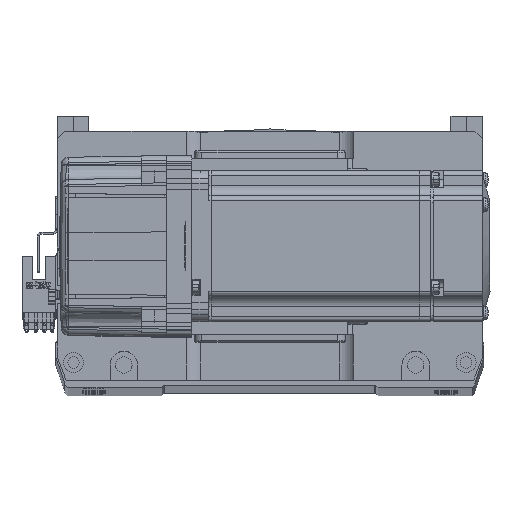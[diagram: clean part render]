
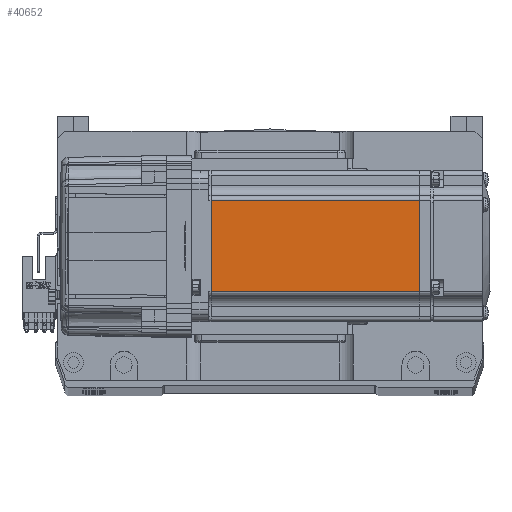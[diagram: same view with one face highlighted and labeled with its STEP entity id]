
A CAD part, top view. The second image highlights one B-rep face of the part: STEP entity #40652.
In plain terms, the highlighted planar face has unit normal (0, 0, 1) as drawn and (0, -1, 0) by its records, which use the part's own axes.
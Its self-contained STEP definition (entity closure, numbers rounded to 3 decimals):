
#1066 = ORIENTED_EDGE ( 'NONE', *, *, #34279, .T. ) ;
#2114 = CARTESIAN_POINT ( 'NONE',  ( -6.5, -30., 18. ) ) ;
#4846 = CARTESIAN_POINT ( 'NONE',  ( -7.75, -30., -25. ) ) ;
#4942 = VERTEX_POINT ( 'NONE', #28790 ) ;
#6464 = DIRECTION ( 'NONE',  ( 0., 0., -1. ) ) ;
#9375 = ORIENTED_EDGE ( 'NONE', *, *, #49187, .T. ) ;
#10423 = VECTOR ( 'NONE', #17067, 1000. ) ;
#12077 = PLANE ( 'NONE',  #20476 ) ;
#14851 = VECTOR ( 'NONE', #50184, 1000. ) ;
#15293 = FACE_OUTER_BOUND ( 'NONE', #47643, .T. ) ;
#15458 = VECTOR ( 'NONE', #42242, 1000. ) ;
#15574 = DIRECTION ( 'NONE',  ( 0., 0., 1. ) ) ;
#17067 = DIRECTION ( 'NONE',  ( -1., 0., 0. ) ) ;
#20199 = EDGE_CURVE ( 'NONE', #36230, #34762, #43998, .T. ) ;
#20476 = AXIS2_PLACEMENT_3D ( 'NONE', #57824, #22312, #6464 ) ;
#22312 = DIRECTION ( 'NONE',  ( 0., -1., 0. ) ) ;
#22789 = EDGE_CURVE ( 'NONE', #34762, #4942, #55615, .T. ) ;
#24173 = ORIENTED_EDGE ( 'NONE', *, *, #22789, .T. ) ;
#28790 = CARTESIAN_POINT ( 'NONE',  ( -90.45, -30., -18. ) ) ;
#30575 = LINE ( 'NONE', #55528, #15458 ) ;
#32383 = LINE ( 'NONE', #4846, #33163 ) ;
#33163 = VECTOR ( 'NONE', #15574, 1000. ) ;
#34279 = EDGE_CURVE ( 'NONE', #4942, #56059, #30575, .T. ) ;
#34762 = VERTEX_POINT ( 'NONE', #48145 ) ;
#36230 = VERTEX_POINT ( 'NONE', #44351 ) ;
#40652 = ADVANCED_FACE ( 'NONE', ( #15293 ), #12077, .T. ) ;
#42242 = DIRECTION ( 'NONE',  ( 1., 0., 0. ) ) ;
#43998 = LINE ( 'NONE', #2114, #10423 ) ;
#44351 = CARTESIAN_POINT ( 'NONE',  ( -7.75, -30., 18. ) ) ;
#47643 = EDGE_LOOP ( 'NONE', ( #9375, #60316, #24173, #1066 ) ) ;
#48145 = CARTESIAN_POINT ( 'NONE',  ( -90.45, -30., 18. ) ) ;
#49187 = EDGE_CURVE ( 'NONE', #56059, #36230, #32383, .T. ) ;
#49971 = CARTESIAN_POINT ( 'NONE',  ( -90.45, -30., -25. ) ) ;
#50184 = DIRECTION ( 'NONE',  ( 0., 0., -1. ) ) ;
#55528 = CARTESIAN_POINT ( 'NONE',  ( -6.5, -30., -18. ) ) ;
#55615 = LINE ( 'NONE', #49971, #14851 ) ;
#56059 = VERTEX_POINT ( 'NONE', #63356 ) ;
#57824 = CARTESIAN_POINT ( 'NONE',  ( -6.5, -30., -25. ) ) ;
#60316 = ORIENTED_EDGE ( 'NONE', *, *, #20199, .T. ) ;
#63356 = CARTESIAN_POINT ( 'NONE',  ( -7.75, -30., -18. ) ) ;
